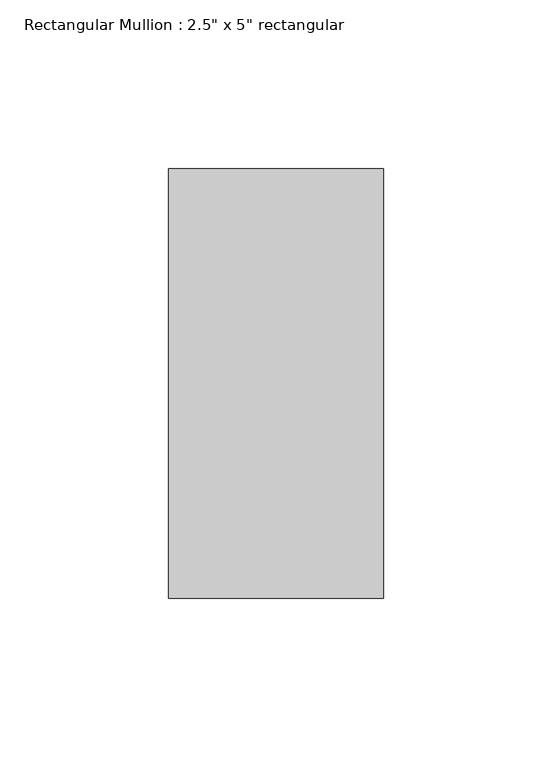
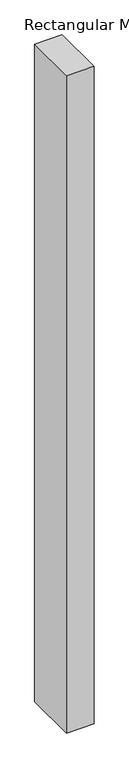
"""IFC4 building model written with IfcOpenShell, lengths in millimetres: member geometry."""

from ifc_helpers import new_model, si_unit, frame, origin, place, context, project, spatial, polyline, outline, extrude, source, transform, mapped, element, save


def member_b0570460(model_context):
    return source(origin(), model_context, "Body", "SweptSolid", [
        extrude(outline(polyline([(31.75, 63.5), (31.75, -63.5), (-31.75, -63.5), (-31.75, 63.5), (31.75, 63.5)])), frame((0.0, 0.0, -1606.55), z_axis=(0.0, 0.0, 1.0), x_axis=(1.0, 0.0, 0.0)), (0.0, 0.0, 1.0), 1606.55),
    ])


if __name__ == "__main__":
    model = new_model("IFC4")
    model_context = context("Model", 3, world=origin())
    ifc_project = project(units=[si_unit("LENGTHUNIT", "METRE", prefix="MILLI")], contexts=[model_context])
    site = spatial("IfcSite", under=ifc_project)
    building = spatial("IfcBuilding", under=site)
    placement = place(None, origin())
    member_shape = member_b0570460(model_context)
    element("IfcMember", 1, ObjectType="Rectangular Mullion : 2.5\" x 5\" rectangular", at=placement, inside=building, context=model_context, shape_type="MappedRepresentation", body=[
        mapped(member_shape, transform((0.0, 0.0, 0.0), x_axis=(1.0, 0.0, 0.0), y_axis=(0.0, 1.0, 0.0), z_axis=(0.0, 0.0, 1.0))),
    ])
    save(model, "model.ifc")
